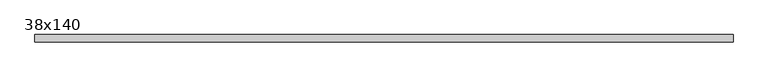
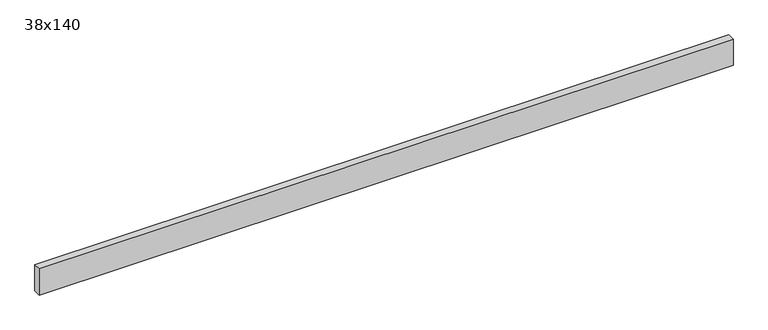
"""IFC4 building model written with IfcOpenShell, lengths in millimetres: beam geometry, Graded Timber : 38x140."""

from ifc_helpers import new_model, si_unit, frame, origin, place, context, project, spatial, polyline, outline, extrude, source, transform, mapped, element, save


def beam_38x140_bfaffe18(model_context):
    return source(origin(), model_context, "Body", "SweptSolid", [
        extrude(outline(polyline([(1774.22808, 19.0), (1774.22808, -19.0), (-1749.7732358, -19.0), (-1749.7732358, 19.0), (1774.22808, 19.0)])), frame((0.0, 0.0, -70.0), z_axis=(0.0, 0.0, 1.0), x_axis=(1.0, 0.0, 0.0)), (0.0, 0.0, 1.0), 140.0),
    ])


if __name__ == "__main__":
    model = new_model("IFC4")
    model_context = context("Model", 3, world=origin())
    ifc_project = project(units=[si_unit("LENGTHUNIT", "METRE", prefix="MILLI")], contexts=[model_context])
    site = spatial("IfcSite", under=ifc_project)
    building = spatial("IfcBuilding", under=site)
    placement = place(None, origin())
    beam_38x140_shape = beam_38x140_bfaffe18(model_context)
    element("IfcBeam", 1, ObjectType="Graded Timber : 38x140", at=placement, inside=building, context=model_context, shape_type="MappedRepresentation", body=[
        mapped(beam_38x140_shape, transform((0.0, 0.0, 0.0), x_axis=(1.0, 0.0, 0.0), y_axis=(0.0, 1.0, 0.0), z_axis=(0.0, 0.0, 1.0))),
    ])
    save(model, "model.ifc")
